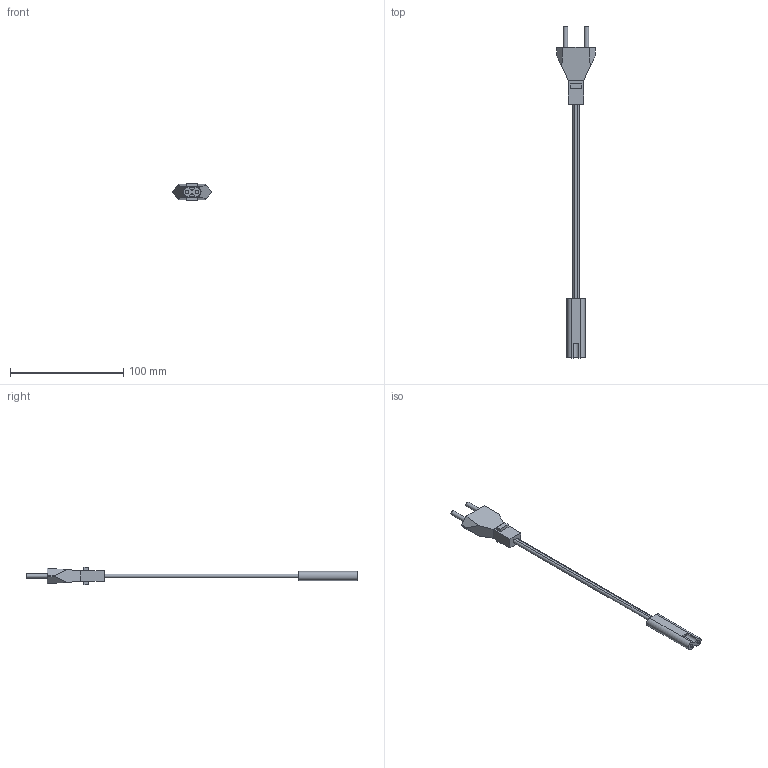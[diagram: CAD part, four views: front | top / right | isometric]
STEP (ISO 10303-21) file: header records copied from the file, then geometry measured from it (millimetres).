
FILE_DESCRIPTION( ( 'STEP AP214' ), '1' );
FILE_NAME( 'C:/Users/KOSH/Desktop/New folder/2021/Actiforce/Export/9309943.stp', '2021-12-03T09:54:50', ( '' ), ( '' ), ' ', 'PARTsolutions', ' ' );
FILE_SCHEMA( ( 'AUTOMOTIVE_DESIGN { 1 0 10303 214 1 1 1 1 }' ) );
Length unit declared in the file: millimetre
Products named in the file (1): _9309943
Bounding box: 34.24 x 293.57 x 15.5 mm (x, y, z)
Volume: 20409.1 mm3; surface area: 9527.6 mm2
Topology: 1 solids, 1 shells, 48 faces, 114 edges, 76 vertices
Faces by surface type: plane 38, cylinder 10
Full cylindrical faces by diameter (mm): 2.9 x2, 4 x2
Entity records: 1758 total; most frequent: CARTESIAN_POINT 235, DIRECTION 228, ORIENTED_EDGE 220, EDGE_CURVE 110, LINE 90, VECTOR 90, VERTEX_POINT 76, AXIS2_PLACEMENT_3D 69
